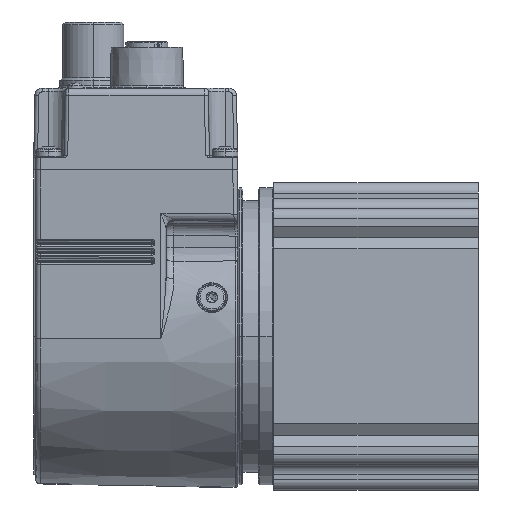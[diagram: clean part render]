
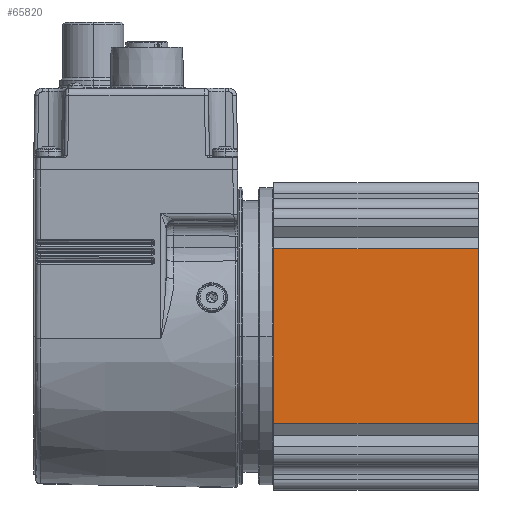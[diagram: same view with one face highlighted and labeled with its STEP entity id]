
A CAD part, front view. The second image highlights one B-rep face of the part: STEP entity #65820.
In plain terms, the highlighted planar face has unit normal (0, -1, 0).
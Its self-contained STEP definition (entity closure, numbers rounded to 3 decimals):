
#62573=DIRECTION('',(1.,0.,0.));
#62574=VECTOR('',#62573,34.172);
#62575=CARTESIAN_POINT('',(-17.086,-30.,0.));
#62576=LINE('',#62575,#62574);
#63428=DIRECTION('',(1.,0.,0.));
#63429=VECTOR('',#63428,34.172);
#63430=CARTESIAN_POINT('',(-17.086,-30.,40.));
#63431=LINE('',#63430,#63429);
#63790=DIRECTION('',(0.,0.,1.));
#63791=VECTOR('',#63790,40.);
#63792=CARTESIAN_POINT('',(-17.086,-30.,0.));
#63793=LINE('',#63792,#63791);
#63797=DIRECTION('',(0.,0.,1.));
#63798=VECTOR('',#63797,40.);
#63799=CARTESIAN_POINT('',(17.086,-30.,0.));
#63800=LINE('',#63799,#63798);
#64774=CARTESIAN_POINT('',(-17.086,-30.,0.));
#64775=VERTEX_POINT('',#64774);
#64776=CARTESIAN_POINT('',(17.086,-30.,0.));
#64777=VERTEX_POINT('',#64776);
#64906=CARTESIAN_POINT('',(-17.086,-30.,40.));
#64907=VERTEX_POINT('',#64906);
#64908=CARTESIAN_POINT('',(17.086,-30.,40.));
#64909=VERTEX_POINT('',#64908);
#65808=CARTESIAN_POINT('',(-17.086,-30.,0.));
#65809=DIRECTION('',(0.,-1.,0.));
#65810=DIRECTION('',(1.,0.,0.));
#65811=AXIS2_PLACEMENT_3D('',#65808,#65809,#65810);
#65812=PLANE('',#65811);
#65813=ORIENTED_EDGE('',*,*,#65178,.F.);
#65814=ORIENTED_EDGE('',*,*,#65803,.T.);
#65815=ORIENTED_EDGE('',*,*,#65438,.T.);
#65817=ORIENTED_EDGE('',*,*,#65816,.F.);
#65818=EDGE_LOOP('',(#65813,#65814,#65815,#65817));
#65819=FACE_OUTER_BOUND('',#65818,.F.);
#65178=EDGE_CURVE('',#64775,#64777,#62576,.T.);
#65438=EDGE_CURVE('',#64907,#64909,#63431,.T.);
#65803=EDGE_CURVE('',#64775,#64907,#63793,.T.);
#65816=EDGE_CURVE('',#64777,#64909,#63800,.T.);
#65820=ADVANCED_FACE('',(#65819),#65812,.T.);
